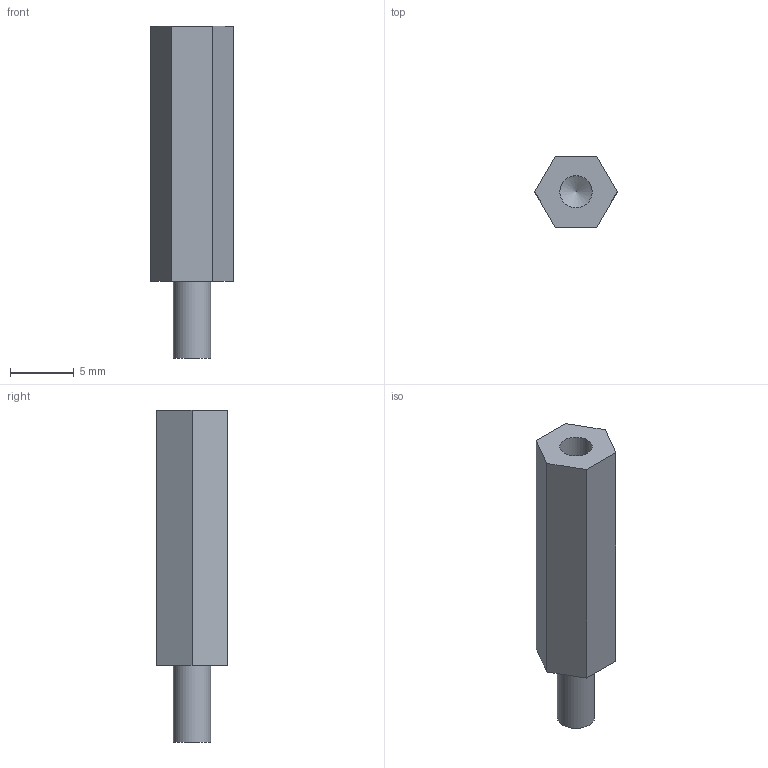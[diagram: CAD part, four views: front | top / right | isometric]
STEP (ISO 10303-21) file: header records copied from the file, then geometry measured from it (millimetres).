
FILE_DESCRIPTION(/* description */ (''),/* implementation_level */ '2;1');
FILE_NAME(/* name */ 'C:/Users/User/Desktop/hex spacer M3x20 v1.step',/* time_stamp */ '2020-09-21T13:37:36+08:00',/* author */ (''),/* organization */ (''),/* preprocessor_version */ 'ST-DEVELOPER v18.1',/* originating_system */ 'Autodesk Translation Framework v9.3.0.1241',/* authorisation */ '');
FILE_SCHEMA (('AUTOMOTIVE_DESIGN { 1 0 10303 214 3 1 1 }'));
Length unit declared in the file: millimetre
Products named in the file (2): hex spacer M3x20; hex spacer
Assembly tree (1 placements, depth 2):
  hex spacer M3x20
    hex spacer
Bounding box: 6.47 x 5.6 x 26 mm (x, y, z)
Volume: 552.1 mm3; surface area: 546 mm2
Topology: 1 solids, 1 shells, 12 faces, 26 edges, 17 vertices
Faces by surface type: plane 9, cylinder 2, cone 1
Full cylindrical faces by diameter (mm): 2.529 x1, 2.927 x1
Entity records: 381 total; most frequent: DIRECTION 59, CARTESIAN_POINT 57, ORIENTED_EDGE 50, EDGE_CURVE 25, LINE 21, VECTOR 21, AXIS2_PLACEMENT_3D 19, VERTEX_POINT 17
